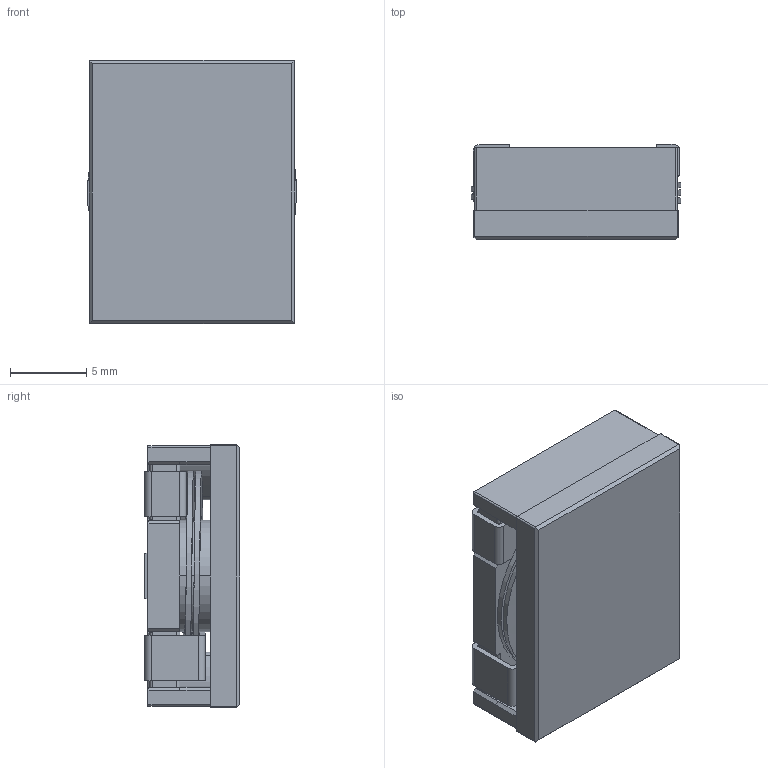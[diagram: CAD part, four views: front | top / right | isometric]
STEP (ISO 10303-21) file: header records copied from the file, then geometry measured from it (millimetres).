
FILE_DESCRIPTION (( 'STEP AP203' ), '1' );
FILE_NAME ('PA5120.STEP', '2021-07-23T01:36:45', ( '' ), ( '' ), 'SwSTEP 2.0', 'SolidWorks 2020', '' );
FILE_SCHEMA (( 'CONFIG_CONTROL_DESIGN' ));
Length unit declared in the file: millimetre
Products named in the file (5): 022-S10; 032-PA5120-I-S10; 023-PA5120-S10; 032-PA5120-ER-S10; PA5120
Assembly tree (4 placements, depth 2):
  PA5120
    032-PA5120-ER-S10
    032-PA5120-I-S10
    023-PA5120-S10
    022-S10
Bounding box: 13.8 x 6.25 x 17.3 mm (x, y, z)
Volume: 1207 mm3; surface area: 2082.5 mm2
Topology: 4 solids, 4 shells, 128 faces, 341 edges, 222 vertices
Faces by surface type: plane 83, cylinder 41, bspline 4
Entity records: 4838 total; most frequent: CARTESIAN_POINT 1181, ORIENTED_EDGE 682, DIRECTION 636, EDGE_CURVE 341, LINE 246, VECTOR 246, VERTEX_POINT 222, AXIS2_PLACEMENT_3D 195
